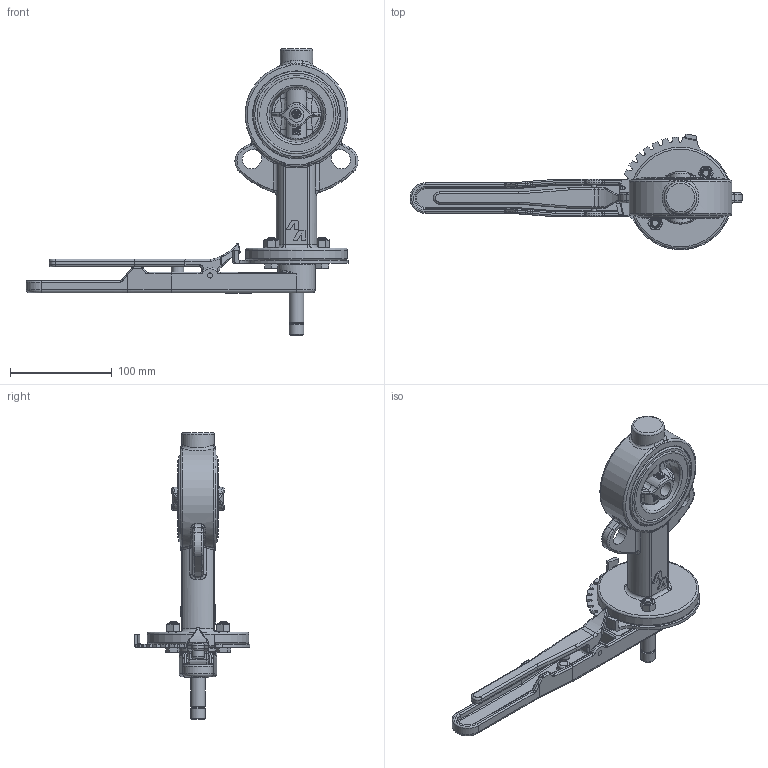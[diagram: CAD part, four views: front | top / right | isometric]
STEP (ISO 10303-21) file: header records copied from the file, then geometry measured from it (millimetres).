
FILE_DESCRIPTION( ( 'Unknown' ), '1' );
FILE_NAME( 'D:/Documentos Murilo/Desktop/VARB/2024/10_OUTUBRO/AMA 93_2/MONTAGEM_AMA_93_2.stp', 'Unknown', ( 'Unknown' ), ( 'Unknown' ), 'PSStep 11.0', 'Unknown', ' ' );
FILE_SCHEMA( ( 'AUTOMOTIVE_DESIGN { 1 0 10303 214 1 1 1 1 }' ) );
Length unit declared in the file: millimetre
Products named in the file (13): Assem1; CORPO 93 2; SEDE 2; EIXO2; POSICIONADOR; ALAVANCA AMA 93; PARAFUSO; BORBOLETA 2
Bounding box: 326.51 x 113.67 x 281.84 mm (x, y, z)
Volume: 1248085.5 mm3; surface area: 366656.3 mm2
Topology: 24 solids, 24 shells, 1754 faces, 4140 edges, 2514 vertices
Faces by surface type: plane 628, cylinder 498, bspline 230, torus 216, extrusion 116, cone 58, sphere 8
Full cylindrical faces by diameter (mm): 4.8 x2, 5 x4, 5.2 x2, 8 x4, 9 x12, 11.8 x6, 12 x4, 12.1 x2, 14.3 x4, 14.4 x2, 14.5 x8, 32 x2, 37 x2, 51.6 x2, 70 x4, 85 x4, 86.5 x4, 100 x2
Entity records: 46584 total; most frequent: CARTESIAN_POINT 20346, ORIENTED_EDGE 3888, DIRECTION 3836, EDGE_CURVE 1944, AXIS2_PLACEMENT_3D 1473, VERTEX_POINT 1228, EDGE_LOOP 1052, FACE_OUTER_BOUND 939
